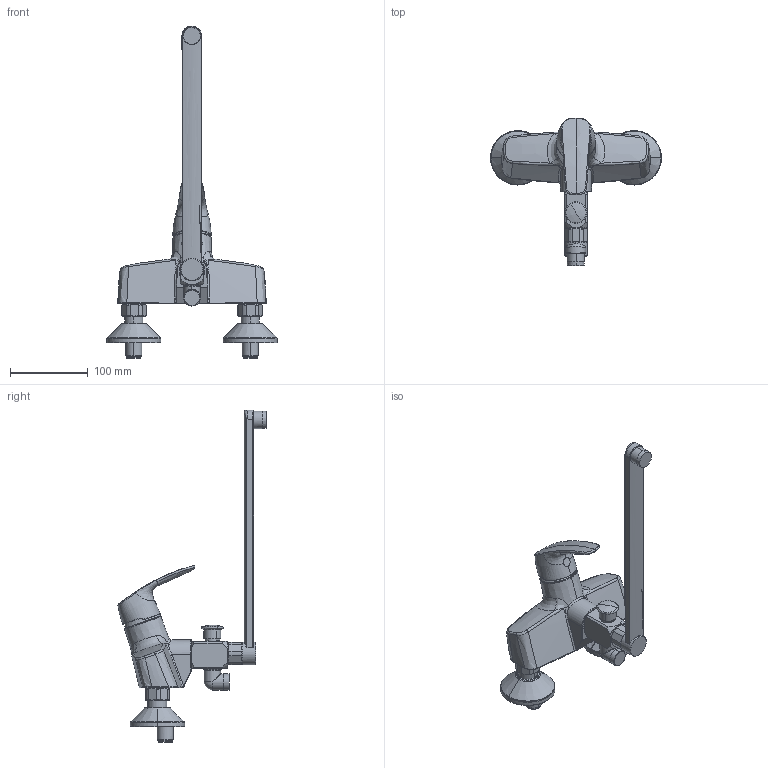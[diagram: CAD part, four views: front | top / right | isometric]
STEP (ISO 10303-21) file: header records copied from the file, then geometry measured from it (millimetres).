
FILE_DESCRIPTION (( 'STEP AP203' ), '1' );
FILE_NAME ('1073X(2017).STEP', '2018-04-18T04:38:55', ( '' ), ( '' ), 'SwSTEP 2.0', 'SolidWorks 2016', '' );
FILE_SCHEMA (( 'CONFIG_CONTROL_DESIGN' ));
Length unit declared in the file: millimetre
Products named in the file (1): 1073X(2017)
Bounding box: 220 x 190.6 x 427.45 mm (x, y, z)
Volume: 774904.6 mm3; surface area: 132178.9 mm2
Topology: 1 solids, 5 shells, 589 faces, 1421 edges, 866 vertices
Faces by surface type: cylinder 160, bspline 143, plane 139, cone 110, torus 34, sphere 3
Entity records: 33940 total; most frequent: CARTESIAN_POINT 21360, ORIENTED_EDGE 2832, DIRECTION 2345, EDGE_CURVE 1416, AXIS2_PLACEMENT_3D 980, VERTEX_POINT 866, EDGE_LOOP 622, FACE_OUTER_BOUND 589
